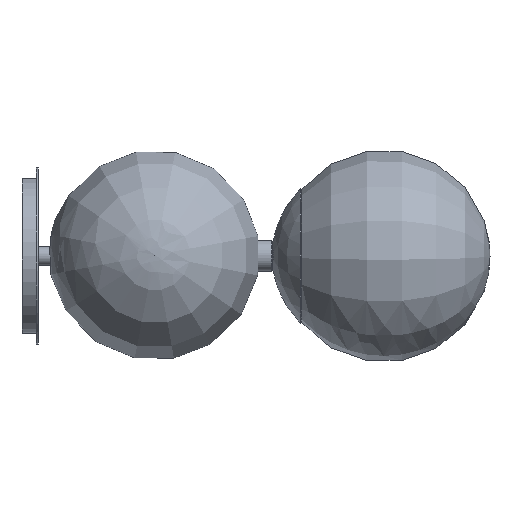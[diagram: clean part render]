
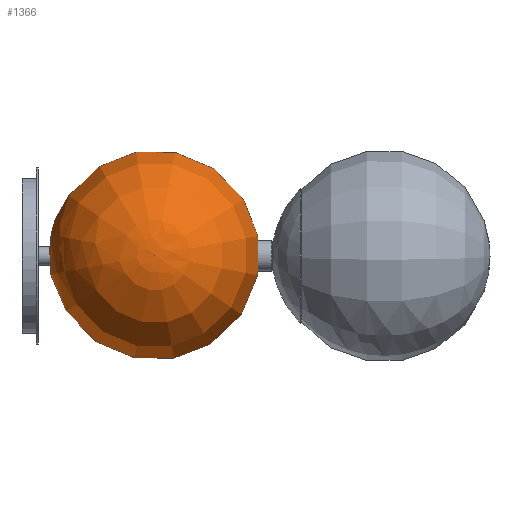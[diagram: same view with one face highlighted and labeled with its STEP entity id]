
A CAD part, top view. The second image highlights one B-rep face of the part: STEP entity #1366.
In plain terms, the highlighted free-form (B-spline) face has degree [2, 2] with [5, 9] control points.
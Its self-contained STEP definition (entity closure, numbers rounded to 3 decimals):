
#15=(
BOUNDED_SURFACE()
B_SPLINE_SURFACE(2,2,((#2593,#2594,#2595,#2596,#2597,#2598,#2599,#2600,
#2601),(#2602,#2603,#2604,#2605,#2606,#2607,#2608,#2609,#2610),(#2611,#2612,
#2613,#2614,#2615,#2616,#2617,#2618,#2619),(#2620,#2621,#2622,#2623,#2624,
#2625,#2626,#2627,#2628),(#2629,#2630,#2631,#2632,#2633,#2634,#2635,#2636,
#2637)),.UNSPECIFIED.,.F.,.T.,.F.)
B_SPLINE_SURFACE_WITH_KNOTS((3,2,3),(3,2,2,2,3),(-1.227,0.173,
1.572),(-3.142,-1.571,0.,1.571,
3.142),.UNSPECIFIED.)
GEOMETRIC_REPRESENTATION_ITEM()
RATIONAL_B_SPLINE_SURFACE(((1.,0.707,1.,0.707,1.,
0.707,1.,0.707,1.),(0.765,0.541,
0.765,0.541,0.765,0.541,
0.765,0.541,0.765),(1.,0.707,
1.,0.707,1.,0.707,1.,0.707,1.),(0.765,
0.541,0.765,0.541,0.765,
0.541,0.765,0.541,0.765),
(1.,0.707,1.,0.707,1.,0.707,1.,0.707,
1.)))
REPRESENTATION_ITEM('')
SURFACE()
);
#343=FACE_OUTER_BOUND('',#472,.T.);
#472=EDGE_LOOP('',(#1214,#1215,#1216));
#588=CIRCLE('',#1617,25.378);
#590=CIRCLE('',#1619,75.);
#705=VERTEX_POINT('',#2590);
#706=VERTEX_POINT('',#2638);
#875=EDGE_CURVE('',#705,#705,#588,.T.);
#877=EDGE_CURVE('',#706,#705,#590,.T.);
#1214=ORIENTED_EDGE('',*,*,#877,.T.);
#1215=ORIENTED_EDGE('',*,*,#875,.T.);
#1216=ORIENTED_EDGE('',*,*,#877,.F.);
#1366=ADVANCED_FACE('',(#343),#15,.F.);
#1617=AXIS2_PLACEMENT_3D('',#2591,#2107,#2108);
#1619=AXIS2_PLACEMENT_3D('',#2639,#2111,#2112);
#2107=DIRECTION('center_axis',(0.,0.,
1.));
#2108=DIRECTION('ref_axis',(-0.182,0.983,0.));
#2111=DIRECTION('center_axis',(0.182,-0.983,0.));
#2112=DIRECTION('ref_axis',(-0.983,-0.182,0.));
#2590=CARTESIAN_POINT('',(-24.956,-4.611,776.536));
#2591=CARTESIAN_POINT('Origin',(0.,0.,
776.536));
#2593=CARTESIAN_POINT('Ctrl Pts',(-24.956,-4.611,776.536));
#2594=CARTESIAN_POINT('Ctrl Pts',(-20.344,-29.567,776.536));
#2595=CARTESIAN_POINT('Ctrl Pts',(4.611,-24.956,776.536));
#2596=CARTESIAN_POINT('Ctrl Pts',(29.567,-20.344,776.536));
#2597=CARTESIAN_POINT('Ctrl Pts',(24.956,4.611,776.536));
#2598=CARTESIAN_POINT('Ctrl Pts',(20.344,29.567,776.536));
#2599=CARTESIAN_POINT('Ctrl Pts',(-4.611,24.956,776.536));
#2600=CARTESIAN_POINT('Ctrl Pts',(-29.567,20.344,776.536));
#2601=CARTESIAN_POINT('Ctrl Pts',(-24.956,-4.611,776.536));
#2602=CARTESIAN_POINT('Ctrl Pts',(-83.428,-15.416,797.812));
#2603=CARTESIAN_POINT('Ctrl Pts',(-68.012,-98.844,797.812));
#2604=CARTESIAN_POINT('Ctrl Pts',(15.416,-83.428,797.812));
#2605=CARTESIAN_POINT('Ctrl Pts',(98.844,-68.012,797.812));
#2606=CARTESIAN_POINT('Ctrl Pts',(83.428,15.416,797.812));
#2607=CARTESIAN_POINT('Ctrl Pts',(68.012,98.844,797.812));
#2608=CARTESIAN_POINT('Ctrl Pts',(-15.416,83.428,797.812));
#2609=CARTESIAN_POINT('Ctrl Pts',(-98.844,68.012,797.812));
#2610=CARTESIAN_POINT('Ctrl Pts',(-83.428,-15.416,797.812));
#2611=CARTESIAN_POINT('Ctrl Pts',(-72.765,-13.445,860.028));
#2612=CARTESIAN_POINT('Ctrl Pts',(-59.32,-86.211,860.028));
#2613=CARTESIAN_POINT('Ctrl Pts',(13.445,-72.765,860.028));
#2614=CARTESIAN_POINT('Ctrl Pts',(86.211,-59.32,860.028));
#2615=CARTESIAN_POINT('Ctrl Pts',(72.765,13.445,860.028));
#2616=CARTESIAN_POINT('Ctrl Pts',(59.32,86.211,860.028));
#2617=CARTESIAN_POINT('Ctrl Pts',(-13.445,72.765,860.028));
#2618=CARTESIAN_POINT('Ctrl Pts',(-86.211,59.32,860.028));
#2619=CARTESIAN_POINT('Ctrl Pts',(-72.765,-13.445,860.028));
#2620=CARTESIAN_POINT('Ctrl Pts',(-62.103,-11.475,922.245));
#2621=CARTESIAN_POINT('Ctrl Pts',(-50.627,-73.578,922.245));
#2622=CARTESIAN_POINT('Ctrl Pts',(11.475,-62.103,922.245));
#2623=CARTESIAN_POINT('Ctrl Pts',(73.578,-50.627,922.245));
#2624=CARTESIAN_POINT('Ctrl Pts',(62.103,11.475,922.245));
#2625=CARTESIAN_POINT('Ctrl Pts',(50.627,73.578,922.245));
#2626=CARTESIAN_POINT('Ctrl Pts',(-11.475,62.103,922.245));
#2627=CARTESIAN_POINT('Ctrl Pts',(-73.578,50.627,922.245));
#2628=CARTESIAN_POINT('Ctrl Pts',(-62.103,-11.475,922.245));
#2629=CARTESIAN_POINT('Ctrl Pts',(0.,0.,
922.151));
#2630=CARTESIAN_POINT('Ctrl Pts',(0.,0.,
922.151));
#2631=CARTESIAN_POINT('Ctrl Pts',(0.,0.,
922.151));
#2632=CARTESIAN_POINT('Ctrl Pts',(0.,0.,
922.151));
#2633=CARTESIAN_POINT('Ctrl Pts',(0.,0.,
922.151));
#2634=CARTESIAN_POINT('Ctrl Pts',(0.,0.,
922.151));
#2635=CARTESIAN_POINT('Ctrl Pts',(0.,0.,
922.151));
#2636=CARTESIAN_POINT('Ctrl Pts',(0.,0.,
922.151));
#2637=CARTESIAN_POINT('Ctrl Pts',(0.,0.,
922.151));
#2638=CARTESIAN_POINT('',(0.,0.,922.151));
#2639=CARTESIAN_POINT('Origin',(-0.109,-0.02,
847.151));
